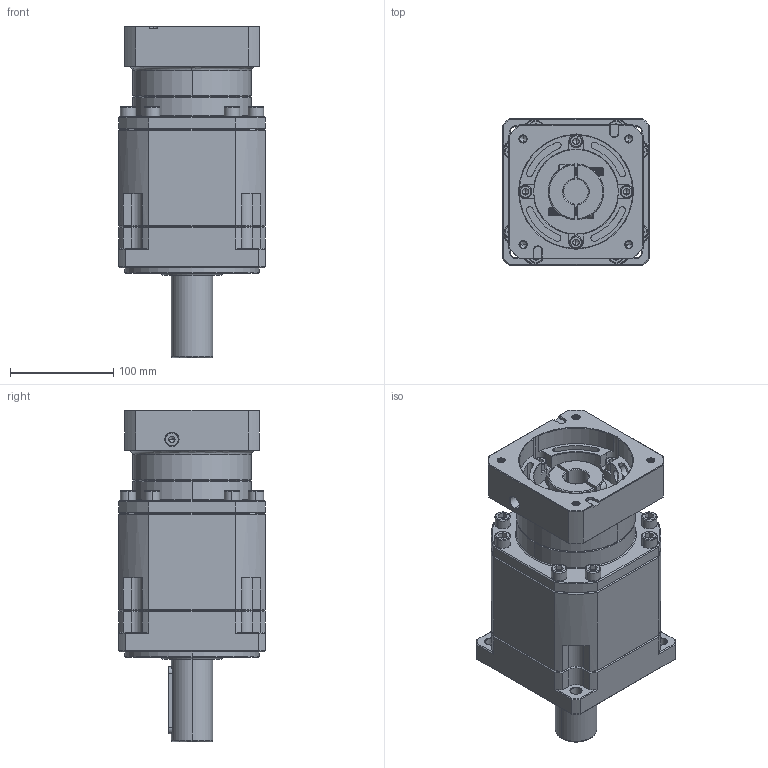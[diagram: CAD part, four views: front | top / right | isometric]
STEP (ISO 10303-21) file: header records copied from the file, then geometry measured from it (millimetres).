
FILE_DESCRIPTION (( 'STEP AP214' ), '1' );
FILE_NAME ('ZB142A-D40-L3-24-110-145-M8.step', '2023-03-18T07:06:28', ( '' ), ( '' ), 'SwSTEP 2.0', 'SolidWorks 2016', '' );
FILE_SCHEMA (( 'AUTOMOTIVE_DESIGN' ));
Length unit declared in the file: millimetre
Products named in the file (1): ZB142A-D40-L3-24-110-145-M8
Bounding box: 142 x 142 x 321.2 mm (x, y, z)
Volume: 3702821.1 mm3; surface area: 275287.2 mm2
Topology: 6 solids, 6 shells, 2324 faces, 6012 edges, 3803 vertices
Faces by surface type: plane 1051, cylinder 517, cone 389, bspline 309, torus 58
Entity records: 123217 total; most frequent: CARTESIAN_POINT 43604, ORIENTED_EDGE 11916, DIRECTION 10129, EDGE_CURVE 5958, VERTEX_POINT 3803, LINE 3665, VECTOR 3665, AXIS2_PLACEMENT_3D 3232
